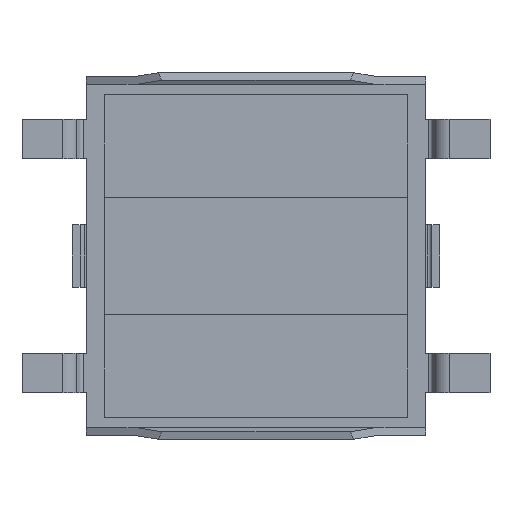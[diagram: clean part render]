
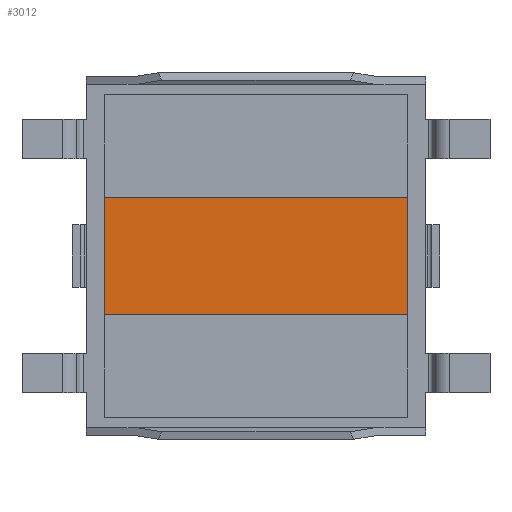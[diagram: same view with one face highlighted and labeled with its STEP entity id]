
A CAD part, front view. The second image highlights one B-rep face of the part: STEP entity #3012.
In plain terms, the highlighted planar face has unit normal (0, -1, 0).
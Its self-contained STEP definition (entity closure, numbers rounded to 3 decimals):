
#33=DIRECTION('',(0.,0.,-1.));
#34=VECTOR('',#33,1.5);
#35=CARTESIAN_POINT('',(1.945,0.06,0.75));
#36=LINE('',#35,#34);
#37=DIRECTION('',(0.,0.,1.));
#38=VECTOR('',#37,1.5);
#39=CARTESIAN_POINT('',(-1.945,0.06,-0.75));
#40=LINE('',#39,#38);
#41=DIRECTION('',(1.,0.,0.));
#42=VECTOR('',#41,3.89);
#43=CARTESIAN_POINT('',(-1.945,0.06,0.75));
#44=LINE('',#43,#42);
#53=DIRECTION('',(1.,0.,0.));
#54=VECTOR('',#53,3.89);
#55=CARTESIAN_POINT('',(-1.945,0.06,-0.75));
#56=LINE('',#55,#54);
#2233=CARTESIAN_POINT('',(-1.945,0.06,0.75));
#2234=VERTEX_POINT('',#2233);
#2235=CARTESIAN_POINT('',(-1.945,0.06,-0.75));
#2236=VERTEX_POINT('',#2235);
#2243=CARTESIAN_POINT('',(1.945,0.06,0.75));
#2244=VERTEX_POINT('',#2243);
#2245=CARTESIAN_POINT('',(1.945,0.06,-0.75));
#2246=VERTEX_POINT('',#2245);
#3000=CARTESIAN_POINT('',(0.,0.06,0.));
#3001=DIRECTION('',(0.,1.,0.));
#3002=DIRECTION('',(0.,0.,1.));
#3003=AXIS2_PLACEMENT_3D('',#3000,#3001,#3002);
#3004=PLANE('',#3003);
#3005=ORIENTED_EDGE('',*,*,#2944,.T.);
#3007=ORIENTED_EDGE('',*,*,#3006,.F.);
#3008=ORIENTED_EDGE('',*,*,#2973,.T.);
#3009=ORIENTED_EDGE('',*,*,#2993,.T.);
#3010=EDGE_LOOP('',(#3005,#3007,#3008,#3009));
#3011=FACE_OUTER_BOUND('',#3010,.F.);
#2944=EDGE_CURVE('',#2244,#2246,#36,.T.);
#2973=EDGE_CURVE('',#2236,#2234,#40,.T.);
#2993=EDGE_CURVE('',#2234,#2244,#44,.T.);
#3006=EDGE_CURVE('',#2236,#2246,#56,.T.);
#3012=ADVANCED_FACE('',(#3011),#3004,.F.);
